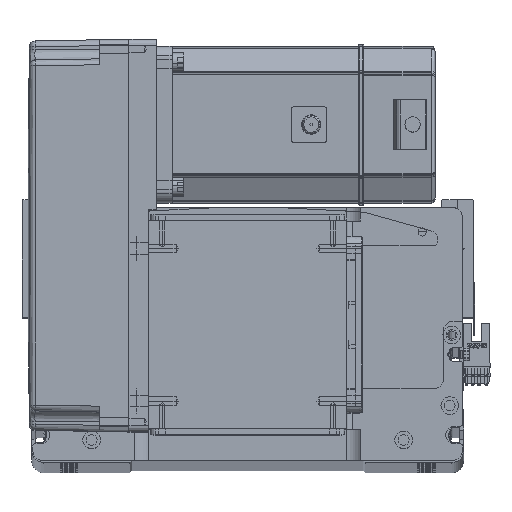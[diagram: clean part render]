
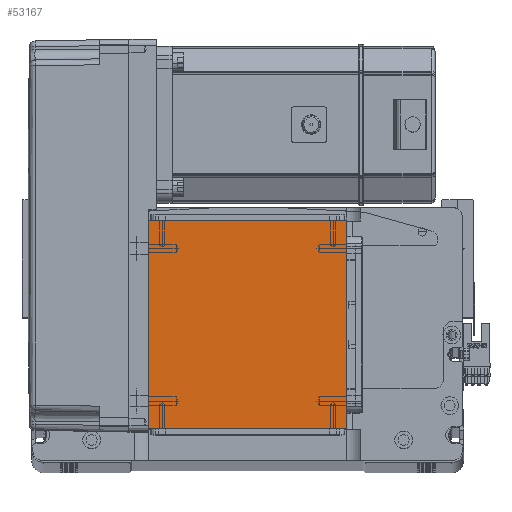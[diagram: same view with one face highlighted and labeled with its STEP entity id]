
A CAD part, top view. The second image highlights one B-rep face of the part: STEP entity #53167.
In plain terms, the highlighted planar face has unit normal (0, 0, 1).
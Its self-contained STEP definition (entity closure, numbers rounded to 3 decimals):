
#87 = DIRECTION ( 'NONE',  ( 0., -1., 0. ) ) ;
#696 = EDGE_CURVE ( 'NONE', #7968, #46025, #20238, .T. ) ;
#1056 = CARTESIAN_POINT ( 'NONE',  ( 50.5, 16., 115. ) ) ;
#3027 = EDGE_CURVE ( 'NONE', #46025, #46777, #38660, .T. ) ;
#6229 = CARTESIAN_POINT ( 'NONE',  ( 50.5, 122., 115. ) ) ;
#6350 = EDGE_CURVE ( 'NONE', #43239, #7968, #17106, .T. ) ;
#7968 = VERTEX_POINT ( 'NONE', #37829 ) ;
#13182 = VECTOR ( 'NONE', #47925, 1000. ) ;
#13521 = VECTOR ( 'NONE', #17590, 1000. ) ;
#14642 = DIRECTION ( 'NONE',  ( 0., 0., 1. ) ) ;
#16075 = CARTESIAN_POINT ( 'NONE',  ( -50.5, 16., 115. ) ) ;
#17106 = LINE ( 'NONE', #41094, #36358 ) ;
#17590 = DIRECTION ( 'NONE',  ( -1., 0., 0. ) ) ;
#19207 = CARTESIAN_POINT ( 'NONE',  ( 0., 0., 115. ) ) ;
#20238 = LINE ( 'NONE', #16075, #13182 ) ;
#24131 = DIRECTION ( 'NONE',  ( 0., 1., 0. ) ) ;
#27319 = AXIS2_PLACEMENT_3D ( 'NONE', #19207, #14642, #28191 ) ;
#28191 = DIRECTION ( 'NONE',  ( 1., 0., 0. ) ) ;
#29632 = ORIENTED_EDGE ( 'NONE', *, *, #3027, .T. ) ;
#34919 = LINE ( 'NONE', #53384, #13521 ) ;
#36358 = VECTOR ( 'NONE', #87, 1000. ) ;
#36801 = PLANE ( 'NONE',  #27319 ) ;
#37082 = CARTESIAN_POINT ( 'NONE',  ( -50.5, 122., 115. ) ) ;
#37829 = CARTESIAN_POINT ( 'NONE',  ( -50.5, 16., 115. ) ) ;
#38352 = CARTESIAN_POINT ( 'NONE',  ( 50.5, 122., 115. ) ) ;
#38660 = LINE ( 'NONE', #6229, #40083 ) ;
#40083 = VECTOR ( 'NONE', #24131, 1000. ) ;
#41094 = CARTESIAN_POINT ( 'NONE',  ( -50.5, 122., 115. ) ) ;
#43239 = VERTEX_POINT ( 'NONE', #37082 ) ;
#46025 = VERTEX_POINT ( 'NONE', #1056 ) ;
#46777 = VERTEX_POINT ( 'NONE', #38352 ) ;
#47925 = DIRECTION ( 'NONE',  ( 1., 0., 0. ) ) ;
#48510 = EDGE_LOOP ( 'NONE', ( #58826, #56125, #29632, #51755 ) ) ;
#51755 = ORIENTED_EDGE ( 'NONE', *, *, #58504, .T. ) ;
#53167 = ADVANCED_FACE ( 'NONE', ( #56342 ), #36801, .T. ) ;
#53384 = CARTESIAN_POINT ( 'NONE',  ( -50.5, 122., 115. ) ) ;
#56125 = ORIENTED_EDGE ( 'NONE', *, *, #696, .T. ) ;
#56342 = FACE_OUTER_BOUND ( 'NONE', #48510, .T. ) ;
#58504 = EDGE_CURVE ( 'NONE', #46777, #43239, #34919, .T. ) ;
#58826 = ORIENTED_EDGE ( 'NONE', *, *, #6350, .T. ) ;
